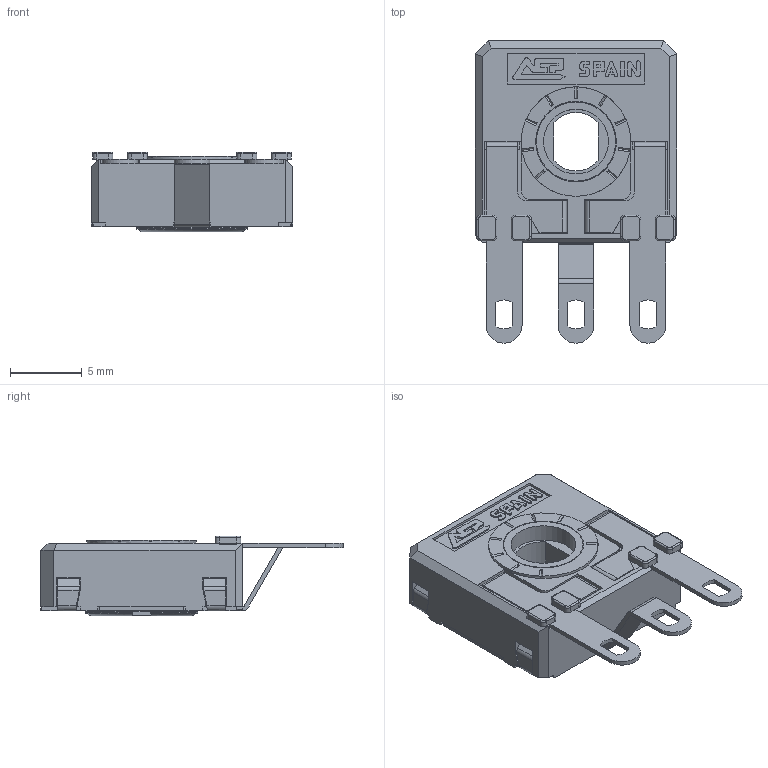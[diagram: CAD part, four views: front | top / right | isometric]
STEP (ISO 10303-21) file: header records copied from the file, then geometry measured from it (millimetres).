
FILE_DESCRIPTION(/* description */ (''),/* implementation_level */ '2;1');
FILE_NAME(/* name */ 'C:\Users\CEM\Desktop\ENVIAR\TRANSICION 3D CATALOGOS\RS14ZHC0.stp',/* time_stamp */ '2025-12-10T11:35:38+01:00',/* author */ ('CEM'),/* organization */ (''),/* preprocessor_version */ 'ST-DEVELOPER v16.13',/* originating_system */ 'Autodesk Inventor 2018',/* authorisation */ '');
FILE_SCHEMA (('AUTOMOTIVE_DESIGN { 1 0 10303 214 3 1 1 }'));
Length unit declared in the file: millimetre
Products named in the file (1): CARCASA CA14 PGA
Bounding box: 14 x 21 x 5.55 mm (x, y, z)
Volume: 526.2 mm3; surface area: 1472.8 mm2
Topology: 1 solids, 1 shells, 654 faces, 1836 edges, 1179 vertices
Faces by surface type: plane 473, cylinder 144, torus 23, bspline 8, cone 6
Full cylindrical faces by diameter (mm): 4.5 x1, 5.5 x1, 5.6 x1, 5.752 x1, 6.8 x1, 7.6 x1
Entity records: 21147 total; most frequent: CARTESIAN_POINT 3862, ORIENTED_EDGE 3642, DIRECTION 3459, EDGE_CURVE 1821, LINE 1421, VECTOR 1421, VERTEX_POINT 1174, AXIS2_PLACEMENT_3D 1019
